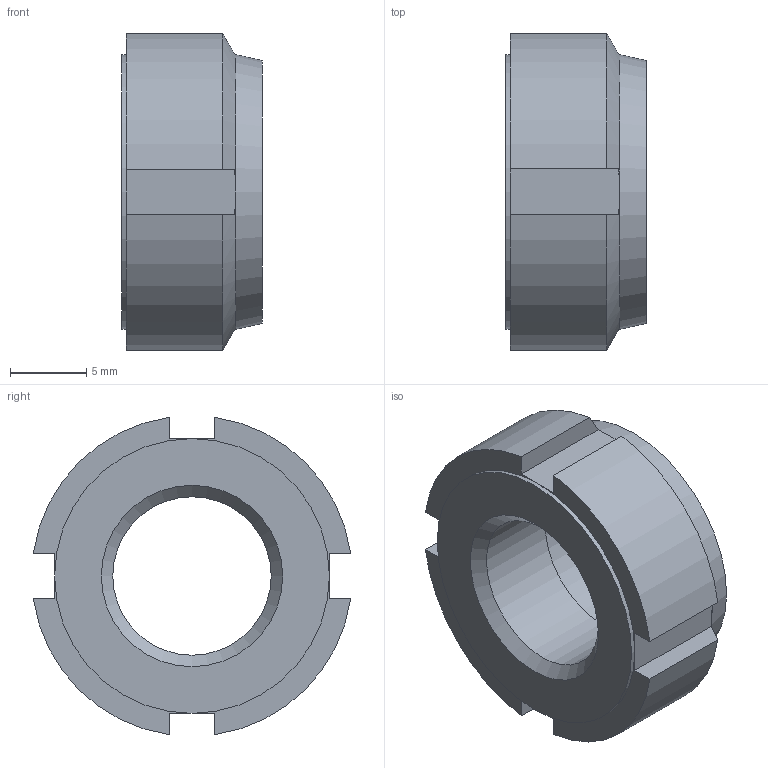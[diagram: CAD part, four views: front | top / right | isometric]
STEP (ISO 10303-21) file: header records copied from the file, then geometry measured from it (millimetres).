
FILE_DESCRIPTION( ( 'STEP AP203' ), '1' );
FILE_NAME( 'C:/Temp/Ganter_Step_05_03_2020/data/3_2/gn1804_1/Slotted locknut self-locking GN 1804.1-M12x1,5.stp', '2020-03-13T05:25:13', ( 'License CC BY-ND 4.0' ), ( 'CADENAS' ), ' ', 'PARTsolutions', ' ' );
FILE_SCHEMA( ( 'CONFIG_CONTROL_DESIGN' ) );
Length unit declared in the file: millimetre
Products named in the file (1): _Slotted locknut self-locking GN 1804.1-M12x1,5
Bounding box: 9.2 x 20.78 x 20.78 mm (x, y, z)
Volume: 1976.2 mm3; surface area: 1389.8 mm2
Topology: 1 solids, 1 shells, 34 faces, 79 edges, 49 vertices
Faces by surface type: plane 20, cylinder 8, cone 6
Full cylindrical faces by diameter (mm): 10.376 x1, 10.9 x1, 13 x1, 18 x1
Entity records: 1006 total; most frequent: CARTESIAN_POINT 217, DIRECTION 152, ORIENTED_EDGE 146, EDGE_CURVE 73, AXIS2_PLACEMENT_3D 60, VERTEX_POINT 49, EDGE_LOOP 44, FACE_OUTER_BOUND 38
